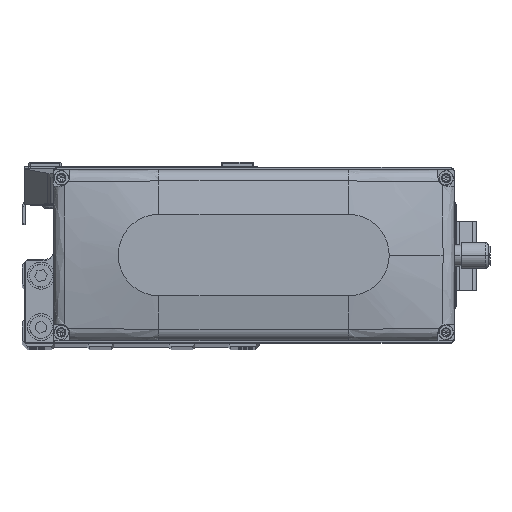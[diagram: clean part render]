
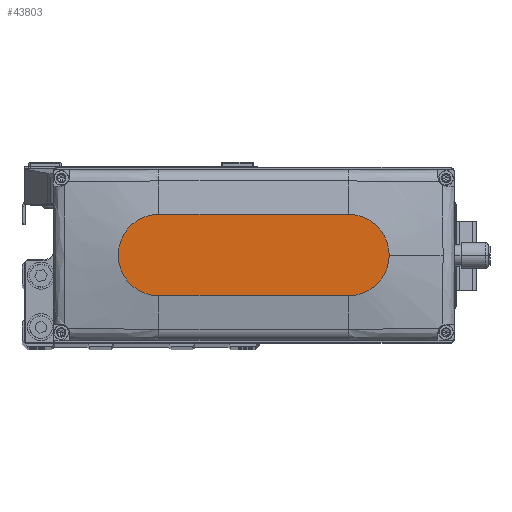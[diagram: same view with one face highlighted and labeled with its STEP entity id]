
A CAD part, top view. The second image highlights one B-rep face of the part: STEP entity #43803.
In plain terms, the highlighted planar face has unit normal (0, 0, 1).
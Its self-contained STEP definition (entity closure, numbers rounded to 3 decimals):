
#2601 = DIRECTION ( 'NONE',  ( 1., 0., 0. ) ) ;
#3413 = ORIENTED_EDGE ( 'NONE', *, *, #23118, .T. ) ;
#3635 = DIRECTION ( 'NONE',  ( 1., 0., 0. ) ) ;
#4305 = VECTOR ( 'NONE', #21674, 1000. ) ;
#6442 = CARTESIAN_POINT ( 'NONE',  ( -35., 15., 35. ) ) ;
#11136 = CARTESIAN_POINT ( 'NONE',  ( -35., 15., 35. ) ) ;
#11430 = DIRECTION ( 'NONE',  ( 1., 0., 0. ) ) ;
#13718 = DIRECTION ( 'NONE',  ( 0., 0., 1. ) ) ;
#13971 = VERTEX_POINT ( 'NONE', #25201 ) ;
#13986 = CIRCLE ( 'NONE', #41821, 15. ) ;
#14809 = DIRECTION ( 'NONE',  ( 1., 0., 0. ) ) ;
#15530 = VERTEX_POINT ( 'NONE', #30415 ) ;
#16488 = ORIENTED_EDGE ( 'NONE', *, *, #31574, .T. ) ;
#17457 = FACE_OUTER_BOUND ( 'NONE', #35869, .T. ) ;
#18915 = VERTEX_POINT ( 'NONE', #11136 ) ;
#20514 = CIRCLE ( 'NONE', #48328, 15. ) ;
#20781 = AXIS2_PLACEMENT_3D ( 'NONE', #22624, #37820, #3635 ) ;
#21597 = CARTESIAN_POINT ( 'NONE',  ( 35., 0., 35. ) ) ;
#21674 = DIRECTION ( 'NONE',  ( -1., 0., 0. ) ) ;
#22291 = CARTESIAN_POINT ( 'NONE',  ( 50., 0., 35. ) ) ;
#22624 = CARTESIAN_POINT ( 'NONE',  ( 35., 0., 35. ) ) ;
#22933 = AXIS2_PLACEMENT_3D ( 'NONE', #47830, #13718, #28907 ) ;
#23118 = EDGE_CURVE ( 'NONE', #34950, #45035, #13986, .T. ) ;
#23524 = ORIENTED_EDGE ( 'NONE', *, *, #26597, .T. ) ;
#25201 = CARTESIAN_POINT ( 'NONE',  ( 35., -15., 35. ) ) ;
#26597 = EDGE_CURVE ( 'NONE', #15530, #13971, #30379, .T. ) ;
#27137 = ORIENTED_EDGE ( 'NONE', *, *, #43380, .T. ) ;
#28905 = EDGE_CURVE ( 'NONE', #45035, #18915, #40603, .T. ) ;
#28907 = DIRECTION ( 'NONE',  ( 1., 0., 0. ) ) ;
#30379 = LINE ( 'NONE', #45563, #39171 ) ;
#30415 = CARTESIAN_POINT ( 'NONE',  ( -35., -15., 35. ) ) ;
#31574 = EDGE_CURVE ( 'NONE', #13971, #34950, #42236, .T. ) ;
#32673 = PLANE ( 'NONE',  #22933 ) ;
#33743 = CARTESIAN_POINT ( 'NONE',  ( -35., 0., 35. ) ) ;
#34950 = VERTEX_POINT ( 'NONE', #22291 ) ;
#35869 = EDGE_LOOP ( 'NONE', ( #49081, #27137, #23524, #16488, #3413 ) ) ;
#36785 = DIRECTION ( 'NONE',  ( 0., 0., 1. ) ) ;
#37820 = DIRECTION ( 'NONE',  ( 0., 0., 1. ) ) ;
#39171 = VECTOR ( 'NONE', #11430, 1000. ) ;
#40603 = LINE ( 'NONE', #6442, #4305 ) ;
#40844 = CARTESIAN_POINT ( 'NONE',  ( 35., 15., 35. ) ) ;
#41821 = AXIS2_PLACEMENT_3D ( 'NONE', #21597, #36785, #2601 ) ;
#42236 = CIRCLE ( 'NONE', #20781, 15. ) ;
#43380 = EDGE_CURVE ( 'NONE', #18915, #15530, #20514, .T. ) ;
#43803 = ADVANCED_FACE ( 'NONE', ( #17457 ), #32673, .T. ) ;
#45035 = VERTEX_POINT ( 'NONE', #40844 ) ;
#45563 = CARTESIAN_POINT ( 'NONE',  ( -35., -15., 35. ) ) ;
#47830 = CARTESIAN_POINT ( 'NONE',  ( 0., 0., 35. ) ) ;
#48328 = AXIS2_PLACEMENT_3D ( 'NONE', #33743, #48907, #14809 ) ;
#48907 = DIRECTION ( 'NONE',  ( 0., 0., 1. ) ) ;
#49081 = ORIENTED_EDGE ( 'NONE', *, *, #28905, .T. ) ;
